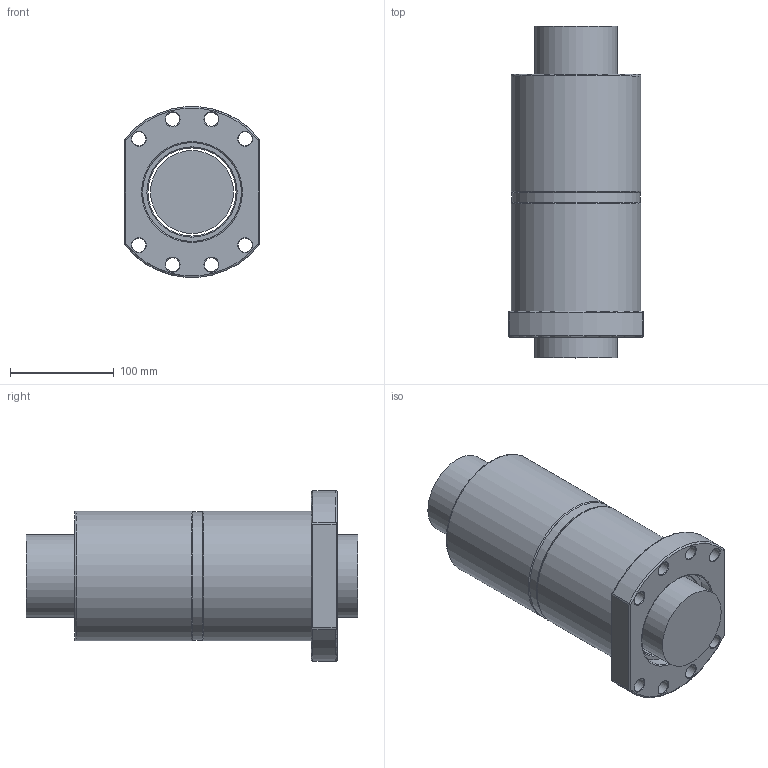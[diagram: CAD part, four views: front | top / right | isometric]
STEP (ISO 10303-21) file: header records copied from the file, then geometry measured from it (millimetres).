
FILE_DESCRIPTION(/* description */ (''),/* implementation_level */ '2;1');
FILE_NAME(/* name */ '8020.prt.step',/* time_stamp */ '2008-12-05T09:28:34+08:00',/* author */ (''),/* organization */ (''),/* preprocessor_version */ 'ST-DEVELOPER v11',/* originating_system */ 'SIEMENS UGS NX 6.0',/* authorisation */ '');
FILE_SCHEMA (('AUTOMOTIVE_DESIGN { 1 0 10303 214 1 1 1 1 }'));
Length unit declared in the file: millimetre
Products named in the file (1): 8020
Bounding box: 130 x 320 x 164.45 mm (x, y, z)
Volume: 3368528.5 mm3; surface area: 317244.9 mm2
Topology: 4 solids, 4 shells, 75 faces, 165 edges, 103 vertices
Faces by surface type: plane 23, cylinder 21, cone 20, torus 11
Full cylindrical faces by diameter (mm): 13.5 x8, 79.95 x1, 85 x3, 95.3 x4, 124 x1, 125 x2
Entity records: 2073 total; most frequent: CARTESIAN_POINT 526, DIRECTION 322, ORIENTED_EDGE 226, AXIS2_PLACEMENT_3D 149, EDGE_LOOP 148, FACE_BOUND 130, EDGE_CURVE 113, VERTEX_POINT 97
